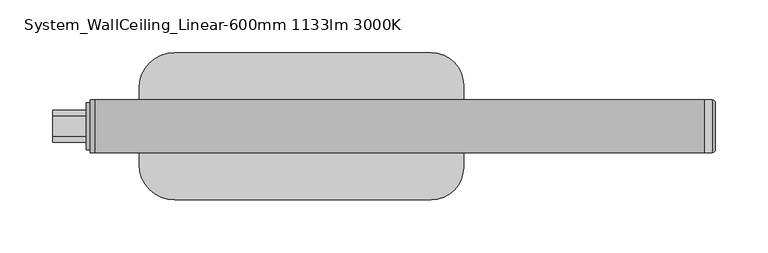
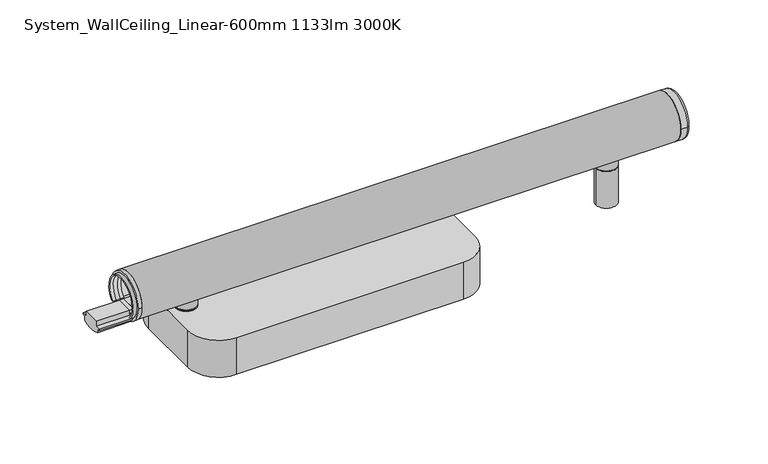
"""IFC4 building model written with IfcOpenShell, lengths in millimetres: light fixture geometry, ARTEMIDE-AoL-System-Linear_WallCeiling_US : System_WallCeiling_Linear-600mm 1133lm 3000K."""

from ifc_helpers import new_model, si_unit, point, frame, frame_2d, origin, origin_with_axes, place, context, project, spatial, polyline, circle_curve, ellipse_curve, trimmed, segment, composite_curve, outline, extrude, source, transform, mapped, element, save
from ifc_brep_helpers import plane_surface, cylinder_surface, revolved_surface, advanced_brep


def system_wallceiling_linear_600mm_1133lm_3000k_8e0fe66f(model_context):
    return source(origin(), model_context, "Body", "SolidModel", [
        advanced_brep(
        [(-2.0, 25.0245983, 74.9754017), (-2.0, -25.0245983, 74.9754017), (-2.0, -9.5062575, 60.6916114), (-2.0, -9.5062575, 64.3781516), (-2.0, 9.5062575, 64.3781516), (-2.0, 9.5062575, 60.6916114), (-2.0, 15.4273739, 60.6916114), (-2.0, 17.2867732, 60.6916114), (-2.0, -17.2867732, 60.6916114), (-2.0, -15.4273739, 60.6916114), (2.0, 25.0245983, 74.9754017), (2.0, -25.0245983, 74.9754017), (2.0, -9.5062575, 60.6916114), (2.0, -15.4273739, 60.6916114), (2.0, -17.2867732, 60.6916114), (2.0, 17.2867732, 60.6916114), (2.0, 15.4273739, 60.6916114), (2.0, 9.5062575, 60.6916114), (2.0, 9.5062575, 64.3781516), (2.0, -9.5062575, 64.3781516), (-6.0, -15.4273739, 60.6916114), (-6.0, -17.2867732, 60.6916114), (-6.0, 17.2867732, 60.6916114), (-6.0, 15.4273739, 60.6916114), (6.0, -15.4273739, 60.6916114), (6.0, 15.4273739, 60.6916114), (6.0, 17.2867732, 60.6916114), (6.0, -17.2867732, 60.6916114)],
        [
            (0, 1, circle_curve(frame((-2.0, 0.0, 74.9754017), z_axis=(-1.0, 0.0, 0.0), x_axis=(0.0, -1.0, 0.0)), 25.0245983)),
            (1, 0, circle_curve(frame((-2.0, 0.0, 74.9754017), z_axis=(-1.0, 0.0, 0.0), x_axis=(0.0, -1.0, 0.0)), 25.0245983)),
            (2, 3),
            (3, 4),
            (4, 5),
            (5, 6),
            (6, 7),
            (7, 8, circle_curve(frame((-2.0, 0.0, 74.9754017), z_axis=(1.0, 0.0, 0.0), x_axis=(0.0, -1.0, 0.0)), 22.4245221)),
            (8, 9),
            (9, 2),
            (10, 11, circle_curve(frame((2.0, 0.0, 74.9754017), z_axis=(1.0, 0.0, 0.0), x_axis=(0.0, -1.0, 0.0)), 25.0245983)),
            (11, 10, circle_curve(frame((2.0, 0.0, 74.9754017), z_axis=(1.0, 0.0, 0.0), x_axis=(0.0, -1.0, 0.0)), 25.0245983)),
            (12, 13),
            (13, 14),
            (14, 15, circle_curve(frame((2.0, 0.0, 74.9754017), z_axis=(-1.0, 0.0, 0.0), x_axis=(0.0, -1.0, 0.0)), 22.4245221)),
            (15, 16),
            (16, 17),
            (17, 18),
            (18, 19),
            (19, 12),
            (5, 17),
            (16, 6),
            (9, 13),
            (12, 2),
            (19, 3),
            (0, 10),
            (11, 1),
            (16, 13, circle_curve(frame((2.0, 0.0, 74.9754017), z_axis=(1.0, 0.0, 0.0), x_axis=(0.0, -1.0, 0.0)), 21.0245221)),
            (9, 6, circle_curve(frame((-2.0, 0.0, 74.9754017), z_axis=(-1.0, 0.0, 0.0), x_axis=(0.0, -1.0, 0.0)), 21.0245221)),
            (20, 21),
            (21, 22, circle_curve(frame((-6.0, 0.0, 74.9754017), z_axis=(-1.0, 0.0, 0.0), x_axis=(0.0, -1.0, 0.0)), 22.4245221)),
            (22, 23),
            (23, 20, circle_curve(frame((-6.0, 0.0, 74.9754017), z_axis=(1.0, 0.0, 0.0), x_axis=(0.0, -1.0, 0.0)), 21.0245221)),
            (24, 25, circle_curve(frame((6.0, 0.0, 74.9754017), z_axis=(-1.0, 0.0, 0.0), x_axis=(0.0, -1.0, 0.0)), 21.0245221)),
            (25, 26),
            (26, 27, circle_curve(frame((6.0, 0.0, 74.9754017), z_axis=(1.0, 0.0, 0.0), x_axis=(0.0, -1.0, 0.0)), 22.4245221)),
            (27, 24),
            (23, 6),
            (9, 20),
            (24, 13),
            (16, 25),
            (8, 21),
            (27, 14),
            (7, 22),
            (26, 15),
            (18, 4),
        ],
        [
            plane_surface(frame((-2.0, 0.0, 74.9754017), z_axis=(-1.0, 0.0, 0.0), x_axis=(0.0, 0.0, -1.0))),
            plane_surface(frame((2.0, 0.0, 74.9754017), z_axis=(1.0, 0.0, 0.0), x_axis=(0.0, 0.0, -1.0))),
            plane_surface(frame((-2.0, 9.5062575, 60.6916114), z_axis=(0.0, 0.0, 1.0), x_axis=(1.0, 0.0, 0.0))),
            plane_surface(frame((-2.0, -15.4273739, 60.6916114), z_axis=(0.0, 0.0, 1.0), x_axis=(1.0, 0.0, 0.0))),
            plane_surface(frame((-2.0, -9.5062575, 60.6916114), z_axis=(0.0, -1.0, 0.0), x_axis=(1.0, 0.0, 0.0))),
            cylinder_surface(frame((-2.0, 0.0, 74.9754017), z_axis=(-1.0, 0.0, 0.0), x_axis=(0.0, -1.0, 0.0)), 25.0245983),
            revolved_surface(polyline([(2.0, -21.0245221, 74.9754017), (-2.0, -21.0245221, 74.9754017)]), (-2.0, 0.0, 74.9754017), (1.0, 0.0, 0.0)),
            plane_surface(frame((-6.0, 0.0, 74.9754017), z_axis=(-1.0, 0.0, 0.0), x_axis=(0.0, 0.0, -1.0))),
            plane_surface(frame((6.0, 0.0, 74.9754017), z_axis=(1.0, 0.0, 0.0), x_axis=(0.0, 0.0, -1.0))),
            revolved_surface(polyline([(-2.0, -21.0245221, 74.9754017), (-6.0, -21.0245221, 74.9754017)]), (-6.0, 0.0, 74.9754017), (1.0, 0.0, 0.0)),
            revolved_surface(polyline([(6.0, -21.0245221, 74.9754017), (2.0, -21.0245221, 74.9754017)]), (-6.0, 0.0, 74.9754017), (1.0, 0.0, 0.0)),
            plane_surface(frame((-6.0, -15.4273739, 60.6916114), z_axis=(0.0, 0.0, -1.0), x_axis=(1.0, 0.0, 0.0))),
            cylinder_surface(frame((-6.0, 0.0, 74.9754017), z_axis=(-1.0, 0.0, 0.0), x_axis=(0.0, -1.0, 0.0)), 22.4245221),
            plane_surface(frame((-6.0, 17.2867732, 60.6916114), z_axis=(0.0, 0.0, -1.0), x_axis=(1.0, 0.0, 0.0))),
            plane_surface(frame((-2.0, -9.5062575, 64.3781516), z_axis=(0.0, 0.0, 1.0), x_axis=(1.0, 0.0, 0.0))),
            plane_surface(frame((-2.0, 9.5062575, 64.3781516), z_axis=(0.0, 1.0, 0.0), x_axis=(1.0, 0.0, 0.0))),
        ],
        [
            (0, [[1, 2], [3, 4, 5, 6, 7, 8, 9, 10]]),
            (1, [[11, 12], [13, 14, 15, 16, 17, 18, 19, 20]]),
            (2, [[-6, 21, -17, 22]]),
            (3, [[-10, 23, -13, 24]]),
            (4, [[-3, -24, -20, 25]]),
            (5, [[-1, 26, -12, 27]]),
            (6, [[-22, 28, -23, 29]]),
            (7, [[30, 31, 32, 33]]),
            (8, [[34, 35, 36, 37]]),
            (9, [[-33, 38, -29, 39]]),
            (10, [[-34, 40, -28, 41]]),
            (11, [[-30, -39, -9, 42]]),
            (11, [[-37, 43, -14, -40]]),
            (12, [[-31, -42, -8, 44]]),
            (12, [[-36, 45, -15, -43]]),
            (13, [[-32, -44, -7, -38]]),
            (13, [[-35, -41, -16, -45]]),
            (5, [[-2, -27, -11, -26]]),
            (14, [[-4, -25, -19, 46]]),
            (15, [[-5, -46, -18, -21]]),
        ],
    ),
        extrude(outline(composite_curve([segment(polyline([(-11.75, 57.2067494), (-15.304087, 57.2067494), (-15.304087, 58.7367744), (-9.5062575, 58.7367744), (-9.5062575, 64.3781516), (9.5062575, 64.3781516), (9.5062575, 58.7367744), (15.304087, 58.7367744), (15.304087, 57.2067494), (11.75, 57.2067494), (11.75, 52.880877)]), True, "CONTINUOUS"), segment(trimmed(circle_curve(frame_2d((0.0, 74.9754017)), 25.0245983), [point((11.75, 52.880877))], [point((-11.75, 52.880877))], False, "CARTESIAN"), True, "CONTINUOUS"), segment(polyline([(-11.75, 52.880877), (-11.75, 57.2067494)]), True, "CONTINUOUS")], self_intersect=False)), frame((2.0, 0.0, 0.0), z_axis=(1.0, 0.0, 0.0), x_axis=(0.0, 1.0, 0.0)), (0.0, 0.0, 1.0), 36.0),
        extrude(outline(composite_curve([segment(polyline([(-11.75, 57.2067494), (-15.304087, 57.2067494), (-15.304087, 58.7367744), (-9.5062575, 58.7367744), (-9.5062575, 64.3781516), (9.5062575, 64.3781516), (9.5062575, 58.7367744), (15.304087, 58.7367744), (15.304087, 57.2067494), (11.75, 57.2067494), (11.75, 52.880877)]), True, "CONTINUOUS"), segment(trimmed(circle_curve(frame_2d((0.0, 74.9754017)), 25.0245983), [point((11.75, 52.880877))], [point((-11.75, 52.880877))], False, "CARTESIAN"), True, "CONTINUOUS"), segment(polyline([(-11.75, 52.880877), (-11.75, 57.2067494)]), True, "CONTINUOUS")], self_intersect=False)), frame((-38.0, 0.0, 0.0), z_axis=(1.0, 0.0, 0.0), x_axis=(0.0, 1.0, 0.0)), (0.0, 0.0, 1.0), 36.0),
        advanced_brep(
        [(59.3054564, 0.0, 1.0), (68.6945436, 0.0, 1.0), (68.6945436, 0.0, 0.0), (59.3054564, 0.0, 0.0), (52.8054564, 0.0, 1.0), (75.1945436, 0.0, 1.0), (52.8054564, 0.0, 42.5), (75.1945436, 0.0, 42.5), (55.2810808, 0.0, 42.5), (72.7189192, 0.0, 42.5), (55.2810808, 0.0, 43.4995055), (72.7189192, 0.0, 43.4995055), (52.8054564, 0.0, 43.4995055), (75.1945436, 0.0, 43.4995055), (52.8054564, 0.0, 52.9333396), (75.1945436, 0.0, 52.9333396), (64.0, 0.0, 52.9333396), (64.0, 0.0, 0.0)],
        [
            (0, 1, circle_curve(frame((64.0, 0.0, 1.0), z_axis=(0.0, 0.0, -1.0), x_axis=(1.0, 0.0, 0.0)), 4.6945436)),
            (1, 2),
            (2, 3, circle_curve(frame((64.0, 0.0, 0.0), z_axis=(0.0, 0.0, 1.0), x_axis=(1.0, 0.0, 0.0)), 4.6945436)),
            (3, 0),
            (1, 0, circle_curve(frame((64.0, 0.0, 1.0), z_axis=(0.0, 0.0, -1.0), x_axis=(1.0, 0.0, 0.0)), 4.6945436)),
            (3, 2, circle_curve(frame((64.0, 0.0, 0.0), z_axis=(0.0, 0.0, 1.0), x_axis=(1.0, 0.0, 0.0)), 4.6945436)),
            (4, 5, circle_curve(frame((64.0, 0.0, 1.0), z_axis=(0.0, 0.0, -1.0), x_axis=(1.0, 0.0, 0.0)), 11.1945436)),
            (5, 1),
            (0, 4),
            (5, 4, circle_curve(frame((64.0, 0.0, 1.0), z_axis=(0.0, 0.0, -1.0), x_axis=(1.0, 0.0, 0.0)), 11.1945436)),
            (6, 7, circle_curve(frame((64.0, 0.0, 42.5), z_axis=(0.0, 0.0, -1.0), x_axis=(1.0, 0.0, 0.0)), 11.1945436)),
            (7, 5),
            (4, 6),
            (7, 6, circle_curve(frame((64.0, 0.0, 42.5), z_axis=(0.0, 0.0, -1.0), x_axis=(1.0, 0.0, 0.0)), 11.1945436)),
            (8, 9, circle_curve(frame((64.0, 0.0, 42.5), z_axis=(0.0, 0.0, -1.0), x_axis=(1.0, 0.0, 0.0)), 8.7189192)),
            (9, 7),
            (6, 8),
            (9, 8, circle_curve(frame((64.0, 0.0, 42.5), z_axis=(0.0, 0.0, -1.0), x_axis=(1.0, 0.0, 0.0)), 8.7189192)),
            (10, 11, circle_curve(frame((64.0, 0.0, 43.4995055), z_axis=(0.0, 0.0, -1.0), x_axis=(1.0, 0.0, 0.0)), 8.7189192)),
            (11, 9),
            (8, 10),
            (11, 10, circle_curve(frame((64.0, 0.0, 43.4995055), z_axis=(0.0, 0.0, -1.0), x_axis=(1.0, 0.0, 0.0)), 8.7189192)),
            (12, 13, circle_curve(frame((64.0, 0.0, 43.4995055), z_axis=(0.0, 0.0, -1.0), x_axis=(1.0, 0.0, 0.0)), 11.1945436)),
            (13, 11),
            (10, 12),
            (13, 12, circle_curve(frame((64.0, 0.0, 43.4995055), z_axis=(0.0, 0.0, -1.0), x_axis=(1.0, 0.0, 0.0)), 11.1945436)),
            (14, 15, circle_curve(frame((64.0, 0.0, 52.9333396), z_axis=(0.0, 0.0, -1.0), x_axis=(1.0, 0.0, 0.0)), 11.1945436)),
            (15, 13),
            (12, 14),
            (15, 14, circle_curve(frame((64.0, 0.0, 52.9333396), z_axis=(0.0, 0.0, -1.0), x_axis=(1.0, 0.0, 0.0)), 11.1945436)),
            (16, 15),
            (14, 16),
            (2, 17),
            (17, 3),
        ],
        [
            cylinder_surface(frame((64.0, 0.0, -58.83358), z_axis=(0.0, 0.0, 1.0), x_axis=(1.0, 0.0, 0.0)), 4.6945436),
            plane_surface(frame((64.0, 0.0, 1.0), z_axis=(0.0, 0.0, -1.0), x_axis=(1.0, 0.0, 0.0))),
            cylinder_surface(frame((64.0, 0.0, -58.83358), z_axis=(0.0, 0.0, 1.0), x_axis=(1.0, 0.0, 0.0)), 11.1945436),
            plane_surface(frame((64.0, 0.0, 42.5), z_axis=(0.0, 0.0, 1.0), x_axis=(1.0, 0.0, 0.0))),
            cylinder_surface(frame((64.0, 0.0, -58.83358), z_axis=(0.0, 0.0, 1.0), x_axis=(1.0, 0.0, 0.0)), 8.7189192),
            plane_surface(frame((64.0, 0.0, 43.4995055), z_axis=(0.0, 0.0, -1.0), x_axis=(1.0, 0.0, 0.0))),
            plane_surface(frame((64.0, 0.0, 52.9333396), z_axis=(0.0, 0.0, 1.0), x_axis=(1.0, 0.0, 0.0))),
            plane_surface(frame((64.0, 0.0, 0.0), z_axis=(0.0, 0.0, -1.0), x_axis=(1.0, 0.0, 0.0))),
        ],
        [
            (0, [[1, 2, 3, 4]]),
            (0, [[5, -4, 6, -2]]),
            (1, [[7, 8, -1, 9]]),
            (1, [[10, -9, -5, -8]]),
            (2, [[11, 12, -7, 13]]),
            (2, [[14, -13, -10, -12]]),
            (3, [[15, 16, -11, 17]]),
            (3, [[18, -17, -14, -16]]),
            (4, [[19, 20, -15, 21]]),
            (4, [[22, -21, -18, -20]]),
            (5, [[23, 24, -19, 25]]),
            (5, [[26, -25, -22, -24]]),
            (2, [[27, 28, -23, 29]]),
            (2, [[30, -29, -26, -28]]),
            (6, [[31, -27, 32]]),
            (6, [[-32, -30, -31]]),
            (7, [[-3, 33, 34]]),
            (7, [[-6, -34, -33]]),
        ],
    ),
        advanced_brep(
        [(511.3054564, 0.0, 1.0), (520.6945436, 0.0, 1.0), (520.6945436, 0.0, 0.0), (511.3054564, 0.0, 0.0), (504.8054564, 0.0, 1.0), (527.1945436, 0.0, 1.0), (504.8054564, 0.0, 42.5), (527.1945436, 0.0, 42.5), (507.2810808, 0.0, 42.5), (524.7189192, 0.0, 42.5), (507.2810808, 0.0, 43.4995055), (524.7189192, 0.0, 43.4995055), (504.8054564, 0.0, 43.4995055), (527.1945436, 0.0, 43.4995055), (504.8054564, 0.0, 52.9333396), (527.1945436, 0.0, 52.9333396), (516.0, 0.0, 52.9333396), (516.0, 0.0, 0.0)],
        [
            (0, 1, circle_curve(frame((516.0, 0.0, 1.0), z_axis=(0.0, 0.0, -1.0), x_axis=(1.0, 0.0, 0.0)), 4.6945436)),
            (1, 2),
            (2, 3, circle_curve(frame((516.0, 0.0, 0.0), z_axis=(0.0, 0.0, 1.0), x_axis=(1.0, 0.0, 0.0)), 4.6945436)),
            (3, 0),
            (1, 0, circle_curve(frame((516.0, 0.0, 1.0), z_axis=(0.0, 0.0, -1.0), x_axis=(1.0, 0.0, 0.0)), 4.6945436)),
            (3, 2, circle_curve(frame((516.0, 0.0, 0.0), z_axis=(0.0, 0.0, 1.0), x_axis=(1.0, 0.0, 0.0)), 4.6945436)),
            (4, 5, circle_curve(frame((516.0, 0.0, 1.0), z_axis=(0.0, 0.0, -1.0), x_axis=(1.0, 0.0, 0.0)), 11.1945436)),
            (5, 1),
            (0, 4),
            (5, 4, circle_curve(frame((516.0, 0.0, 1.0), z_axis=(0.0, 0.0, -1.0), x_axis=(1.0, 0.0, 0.0)), 11.1945436)),
            (6, 7, circle_curve(frame((516.0, 0.0, 42.5), z_axis=(0.0, 0.0, -1.0), x_axis=(1.0, 0.0, 0.0)), 11.1945436)),
            (7, 5),
            (4, 6),
            (7, 6, circle_curve(frame((516.0, 0.0, 42.5), z_axis=(0.0, 0.0, -1.0), x_axis=(1.0, 0.0, 0.0)), 11.1945436)),
            (8, 9, circle_curve(frame((516.0, 0.0, 42.5), z_axis=(0.0, 0.0, -1.0), x_axis=(1.0, 0.0, 0.0)), 8.7189192)),
            (9, 7),
            (6, 8),
            (9, 8, circle_curve(frame((516.0, 0.0, 42.5), z_axis=(0.0, 0.0, -1.0), x_axis=(1.0, 0.0, 0.0)), 8.7189192)),
            (10, 11, circle_curve(frame((516.0, 0.0, 43.4995055), z_axis=(0.0, 0.0, -1.0), x_axis=(1.0, 0.0, 0.0)), 8.7189192)),
            (11, 9),
            (8, 10),
            (11, 10, circle_curve(frame((516.0, 0.0, 43.4995055), z_axis=(0.0, 0.0, -1.0), x_axis=(1.0, 0.0, 0.0)), 8.7189192)),
            (12, 13, circle_curve(frame((516.0, 0.0, 43.4995055), z_axis=(0.0, 0.0, -1.0), x_axis=(1.0, 0.0, 0.0)), 11.1945436)),
            (13, 11),
            (10, 12),
            (13, 12, circle_curve(frame((516.0, 0.0, 43.4995055), z_axis=(0.0, 0.0, -1.0), x_axis=(1.0, 0.0, 0.0)), 11.1945436)),
            (14, 15, circle_curve(frame((516.0, 0.0, 52.9333396), z_axis=(0.0, 0.0, -1.0), x_axis=(1.0, 0.0, 0.0)), 11.1945436)),
            (15, 13),
            (12, 14),
            (15, 14, circle_curve(frame((516.0, 0.0, 52.9333396), z_axis=(0.0, 0.0, -1.0), x_axis=(1.0, 0.0, 0.0)), 11.1945436)),
            (16, 15),
            (14, 16),
            (2, 17),
            (17, 3),
        ],
        [
            cylinder_surface(frame((516.0, 0.0, -58.83358), z_axis=(0.0, 0.0, 1.0), x_axis=(1.0, 0.0, 0.0)), 4.6945436),
            plane_surface(frame((516.0, 0.0, 1.0), z_axis=(0.0, 0.0, -1.0), x_axis=(1.0, 0.0, 0.0))),
            cylinder_surface(frame((516.0, 0.0, -58.83358), z_axis=(0.0, 0.0, 1.0), x_axis=(1.0, 0.0, 0.0)), 11.1945436),
            plane_surface(frame((516.0, 0.0, 42.5), z_axis=(0.0, 0.0, 1.0), x_axis=(1.0, 0.0, 0.0))),
            cylinder_surface(frame((516.0, 0.0, -58.83358), z_axis=(0.0, 0.0, 1.0), x_axis=(1.0, 0.0, 0.0)), 8.7189192),
            plane_surface(frame((516.0, 0.0, 43.4995055), z_axis=(0.0, 0.0, -1.0), x_axis=(1.0, 0.0, 0.0))),
            plane_surface(frame((516.0, 0.0, 52.9333396), z_axis=(0.0, 0.0, 1.0), x_axis=(1.0, 0.0, 0.0))),
            plane_surface(frame((516.0, 0.0, 0.0), z_axis=(0.0, 0.0, -1.0), x_axis=(1.0, 0.0, 0.0))),
        ],
        [
            (0, [[1, 2, 3, 4]]),
            (0, [[5, -4, 6, -2]]),
            (1, [[7, 8, -1, 9]]),
            (1, [[10, -9, -5, -8]]),
            (2, [[11, 12, -7, 13]]),
            (2, [[14, -13, -10, -12]]),
            (3, [[15, 16, -11, 17]]),
            (3, [[18, -17, -14, -16]]),
            (4, [[19, 20, -15, 21]]),
            (4, [[22, -21, -18, -20]]),
            (5, [[23, 24, -19, 25]]),
            (5, [[26, -25, -22, -24]]),
            (2, [[27, 28, -23, 29]]),
            (2, [[30, -29, -26, -28]]),
            (6, [[31, -27, 32]]),
            (6, [[-32, -30, -31]]),
            (7, [[-3, 33, 34]]),
            (7, [[-6, -34, -33]]),
        ],
    ),
        advanced_brep(
        [(592.0, -22.0, 75.0), (592.0, 22.0, 75.0), (582.0, 25.0, 75.0), (582.0, -25.0, 75.0), (589.0, -25.0, 75.0), (589.0, 25.0, 75.0)],
        [
            (0, 1, circle_curve(frame((592.0, 0.0, 75.0), z_axis=(1.0, 0.0, 0.0), x_axis=(0.0, 1.0, 0.0)), 22.0)),
            (1, 0, circle_curve(frame((592.0, 0.0, 75.0), z_axis=(1.0, 0.0, 0.0), x_axis=(0.0, -1.0, 0.0)), 22.0)),
            (2, 3, circle_curve(frame((582.0, 0.0, 75.0), z_axis=(-1.0, 0.0, 0.0), x_axis=(0.0, 0.0, 1.0)), 25.0)),
            (3, 2, circle_curve(frame((582.0, 0.0, 75.0), z_axis=(-1.0, 0.0, 0.0), x_axis=(0.0, 0.0, 1.0)), 25.0)),
            (3, 4),
            (4, 5, circle_curve(frame((589.0, 0.0, 75.0), z_axis=(-1.0, 0.0, 0.0), x_axis=(0.0, 0.0, 1.0)), 25.0)),
            (5, 2),
            (5, 4, circle_curve(frame((589.0, 0.0, 75.0), z_axis=(-1.0, 0.0, 0.0), x_axis=(0.0, 0.0, 1.0)), 25.0)),
            (0, 4, circle_curve(frame((589.0, -22.0, 75.0), z_axis=(0.0, 0.0, -1.0), x_axis=(0.0, -1.0, 0.0)), 3.0)),
            (5, 1, circle_curve(frame((589.0, 22.0, 75.0), z_axis=(0.0, 0.0, -1.0), x_axis=(0.0, 1.0, 0.0)), 3.0)),
        ],
        [
            plane_surface(frame((592.0, 0.0, 100.0), z_axis=(1.0, 0.0, 0.0), x_axis=(0.0, -1.0, 0.0))),
            plane_surface(frame((582.0, 0.0, 100.0), z_axis=(-1.0, 0.0, 0.0), x_axis=(0.0, 1.0, 0.0))),
            cylinder_surface(frame((582.0, 0.0, 75.0), z_axis=(1.0, 0.0, 0.0), x_axis=(0.0, 0.0, 1.0)), 25.0),
            revolved_surface(trimmed(ellipse_curve(frame((589.0, 22.0, 75.0), z_axis=(0.0, 0.0, 1.0), x_axis=(0.0, 1.0, 0.0)), 3.0, 3.0), [point((592.0, 22.0, 75.0))], [point((589.0, 25.0, 75.0))], True, "CARTESIAN"), (592.0, 0.0, 75.0), (-1.0, 0.0, 0.0)),
            revolved_surface(trimmed(ellipse_curve(frame((589.0, -22.0, 75.0), z_axis=(0.0, 0.0, -1.0), x_axis=(0.0, -1.0, 0.0)), 3.0, 3.0), [point((592.0, -22.0, 75.0))], [point((589.0, -25.0, 75.0))], True, "CARTESIAN"), (592.0, 0.0, 75.0), (-1.0, 0.0, 0.0)),
        ],
        [
            (0, [[1, 2]]),
            (1, [[3, 4]]),
            (2, [[-4, 5, 6, 7]]),
            (2, [[-3, -7, 8, -5]]),
            (3, [[9, -8, 10, -1]]),
            (4, [[-9, -2, -10, -6]]),
        ],
    ),
        extrude(outline(composite_curve([segment(trimmed(circle_curve(frame_2d((0.0, 75.0)), 25.0), [point((-11.75, 52.9333396))], [point((11.75, 52.9333396))], False, "CARTESIAN"), True, "CONTINUOUS"), segment(polyline([(11.75, 52.9333396), (11.75, 57.259212), (13.667754, 57.259212), (13.667754, 55.8288843), (15.617754, 57.2440748), (15.617754, 59.244074), (12.667754, 59.244074), (12.667754, 60.744074), (17.2779794, 60.744074)]), True, "CONTINUOUS"), segment(trimmed(circle_curve(frame_2d((0.0, 75.0)), 22.4), [point((17.2779794, 60.744074))], [point((-17.2779794, 60.744074))], True, "CARTESIAN"), True, "CONTINUOUS"), segment(polyline([(-17.2779794, 60.744074), (-12.667754, 60.744074), (-12.667754, 59.244074), (-15.617754, 59.244074), (-15.617754, 57.2440748), (-13.667754, 55.8288843), (-13.667754, 57.259212), (-11.75, 57.259212), (-11.75, 52.9333396)]), True, "CONTINUOUS")], self_intersect=False)), frame((2.0, 0.0, 0.0), z_axis=(1.0, 0.0, 0.0), x_axis=(0.0, 1.0, 0.0)), (0.0, 0.0, 1.0), 580.0),
        extrude(outline(composite_curve([segment(trimmed(circle_curve(frame_2d((0.0, 75.0)), 25.0), [point((11.75, 52.9333396))], [point((-11.75, 52.9333396))], False, "CARTESIAN"), True, "CONTINUOUS"), segment(polyline([(-11.75, 52.9333396), (-11.75, 57.259212), (-15.304087, 57.259212), (-15.304087, 58.785971), (-9.5062575, 58.785971), (-9.5062575, 64.4273482), (9.5062575, 64.4273482), (9.5062575, 58.785971), (15.304087, 58.785971), (15.304087, 57.259212), (11.75, 57.259212), (11.75, 52.9333396)]), True, "CONTINUOUS")], self_intersect=False)), frame((38.0, 0.0, 0.0), z_axis=(1.0, 0.0, 0.0), x_axis=(0.0, 1.0, 0.0)), (0.0, 0.0, 1.0), 544.0),
        extrude(outline(composite_curve([segment(polyline([(77.8708919, 70.0), (321.7624415, 70.0)]), True, "CONTINUOUS"), segment(trimmed(circle_curve(frame_2d((321.7624415, 39.1291081)), 30.8708919), [point((321.7624415, 70.0))], [point((352.6333333, 39.1291081))], False, "CARTESIAN"), True, "CONTINUOUS"), segment(polyline([(352.6333333, 39.1291081), (352.6333333, -39.1500001)]), True, "CONTINUOUS"), segment(trimmed(circle_curve(frame_2d((321.7624415, -39.1500001)), 30.8708919), [point((352.6333333, -39.1500001))], [point((321.7624415, -70.020892))], False, "CARTESIAN"), True, "CONTINUOUS"), segment(polyline([(321.7624415, -70.020892), (77.8708919, -70.020892)]), True, "CONTINUOUS"), segment(trimmed(circle_curve(frame_2d((77.8708919, -36.4833335)), 33.5375585), [point((77.8708919, -70.020892))], [point((44.3333333, -36.4833335))], False, "CARTESIAN"), True, "CONTINUOUS"), segment(polyline([(44.3333333, -36.4833335), (44.3333333, 36.4624415)]), True, "CONTINUOUS"), segment(trimmed(circle_curve(frame_2d((77.8708919, 36.4624415)), 33.5375585), [point((44.3333333, 36.4624415))], [point((77.8708919, 70.0))], False, "CARTESIAN"), True, "CONTINUOUS")], self_intersect=False)), origin_with_axes(), (0.0, 0.0, 1.0), 42.0),
    ])


if __name__ == "__main__":
    model = new_model("IFC4")
    model_context = context("Model", 3, world=origin())
    ifc_project = project(units=[si_unit("LENGTHUNIT", "METRE", prefix="MILLI")], contexts=[model_context])
    site = spatial("IfcSite", under=ifc_project)
    building = spatial("IfcBuilding", under=site)
    placement = place(None, origin())
    system_wallceiling_linear_600mm_1133lm_3000k_shape = system_wallceiling_linear_600mm_1133lm_3000k_8e0fe66f(model_context)
    element("IfcLightFixture", 1, ObjectType="ARTEMIDE-AoL-System-Linear_WallCeiling_US : System_WallCeiling_Linear-600mm 1133lm 3000K", at=placement, inside=building, context=model_context, shape_type="MappedRepresentation", body=[
        mapped(system_wallceiling_linear_600mm_1133lm_3000k_shape, transform((0.0, 0.0, 0.0), x_axis=(1.0, 0.0, 0.0), y_axis=(0.0, 1.0, 0.0), z_axis=(0.0, 0.0, 1.0))),
    ])
    save(model, "model.ifc")
